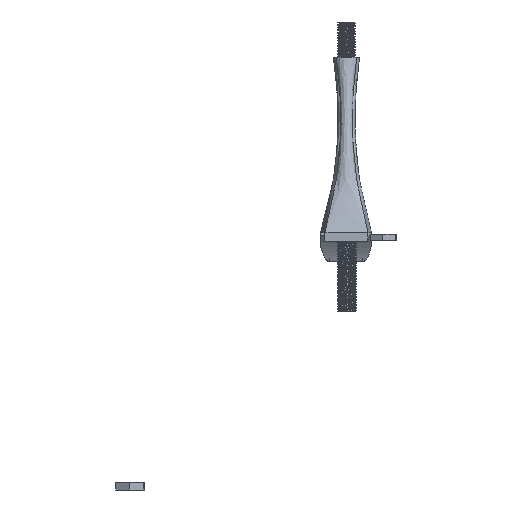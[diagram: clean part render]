
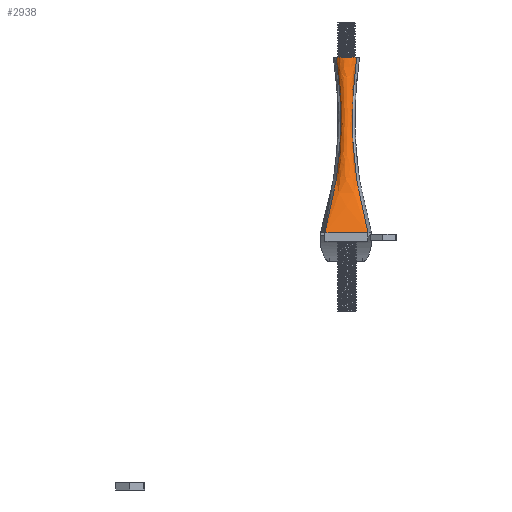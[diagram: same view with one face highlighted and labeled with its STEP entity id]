
A CAD part, front view. The second image highlights one B-rep face of the part: STEP entity #2938.
In plain terms, the highlighted free-form (B-spline) face has degree [3, 3] with [10, 4] control points.
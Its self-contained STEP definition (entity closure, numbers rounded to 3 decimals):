
#77=B_SPLINE_SURFACE_WITH_KNOTS('',3,3,((#14109,#14110,#14111,#14112),(#14113,
#14114,#14115,#14116),(#14117,#14118,#14119,#14120),(#14121,#14122,#14123,
#14124),(#14125,#14126,#14127,#14128),(#14129,#14130,#14131,#14132),(#14133,
#14134,#14135,#14136),(#14137,#14138,#14139,#14140),(#14141,#14142,#14143,
#14144),(#14145,#14146,#14147,#14148)),.UNSPECIFIED.,.F.,.F.,.F.,(4,1,1,
1,1,1,1,4),(4,4),(0.,0.143,0.286,0.429,
0.571,0.714,0.857,1.),(0.,1.),
 .UNSPECIFIED.);
#187=FACE_OUTER_BOUND('',#351,.T.);
#351=EDGE_LOOP('',(#2399,#2400,#2401,#2402,#2403,#2404));
#434=CIRCLE('',#3125,7.5);
#645=B_SPLINE_CURVE_WITH_KNOTS('',3,(#13942,#13943,#13944,#13945),
 .UNSPECIFIED.,.F.,.F.,(4,4),(0.,0.303),.UNSPECIFIED.);
#646=B_SPLINE_CURVE_WITH_KNOTS('',3,(#13947,#13948,#13949,#13950),
 .UNSPECIFIED.,.F.,.F.,(4,4),(0.303,1.),.UNSPECIFIED.);
#659=B_SPLINE_CURVE_WITH_KNOTS('',3,(#14151,#14152,#14153,#14154),
 .UNSPECIFIED.,.F.,.F.,(4,4),(0.,0.303),.UNSPECIFIED.);
#660=B_SPLINE_CURVE_WITH_KNOTS('',3,(#14155,#14156,#14157,#14158),
 .UNSPECIFIED.,.F.,.F.,(4,4),(0.303,1.),.UNSPECIFIED.);
#805=LINE('',#14149,#972);
#972=VECTOR('',#3525,10.);
#1238=VERTEX_POINT('',#13939);
#1239=VERTEX_POINT('',#13941);
#1240=VERTEX_POINT('',#13946);
#1252=VERTEX_POINT('',#14019);
#1261=VERTEX_POINT('',#14079);
#1264=VERTEX_POINT('',#14150);
#1633=EDGE_CURVE('',#1238,#1239,#645,.T.);
#1634=EDGE_CURVE('',#1239,#1240,#646,.T.);
#1660=EDGE_CURVE('',#1240,#1261,#434,.T.);
#1667=EDGE_CURVE('',#1238,#1252,#805,.T.);
#1668=EDGE_CURVE('',#1252,#1264,#659,.T.);
#1669=EDGE_CURVE('',#1264,#1261,#660,.T.);
#2399=ORIENTED_EDGE('',*,*,#1667,.T.);
#2400=ORIENTED_EDGE('',*,*,#1668,.T.);
#2401=ORIENTED_EDGE('',*,*,#1669,.T.);
#2402=ORIENTED_EDGE('',*,*,#1660,.F.);
#2403=ORIENTED_EDGE('',*,*,#1634,.F.);
#2404=ORIENTED_EDGE('',*,*,#1633,.F.);
#2938=ADVANCED_FACE('',(#187),#77,.T.);
#3125=AXIS2_PLACEMENT_3D('',#14080,#3512,#3513);
#3512=DIRECTION('center_axis',(0.,0.,1.));
#3513=DIRECTION('ref_axis',(1.,0.,0.));
#3525=DIRECTION('',(1.,0.,0.));
#13939=CARTESIAN_POINT('',(1.,-19.,146.751));
#13941=CARTESIAN_POINT('',(7.479,-2.79,176.751));
#13942=CARTESIAN_POINT('Ctrl Pts',(1.,-19.,146.751));
#13943=CARTESIAN_POINT('Ctrl Pts',(3.814,-13.057,156.705));
#13944=CARTESIAN_POINT('Ctrl Pts',(5.974,-7.654,166.705));
#13945=CARTESIAN_POINT('Ctrl Pts',(7.479,-2.79,176.751));
#13946=CARTESIAN_POINT('',(7.479,22.21,246.751));
#13947=CARTESIAN_POINT('Ctrl Pts',(7.479,-2.79,176.751));
#13948=CARTESIAN_POINT('Ctrl Pts',(10.938,8.393,199.843));
#13949=CARTESIAN_POINT('Ctrl Pts',(10.938,16.726,223.177));
#13950=CARTESIAN_POINT('Ctrl Pts',(7.479,22.21,246.751));
#14019=CARTESIAN_POINT('',(25.5,-19.,146.751));
#14079=CARTESIAN_POINT('',(19.083,22.285,246.751));
#14080=CARTESIAN_POINT('Origin',(13.25,27.,246.751));
#14109=CARTESIAN_POINT('Ctrl Pts',(1.,-19.,146.751));
#14110=CARTESIAN_POINT('Ctrl Pts',(10.283,0.603,179.589));
#14111=CARTESIAN_POINT('Ctrl Pts',(12.443,14.34,212.922));
#14112=CARTESIAN_POINT('Ctrl Pts',(7.479,22.21,246.751));
#14113=CARTESIAN_POINT('Ctrl Pts',(2.167,-19.,146.751));
#14114=CARTESIAN_POINT('Ctrl Pts',(10.048,0.281,179.589));
#14115=CARTESIAN_POINT('Ctrl Pts',(11.88,13.942,212.922));
#14116=CARTESIAN_POINT('Ctrl Pts',(7.666,21.985,246.751));
#14117=CARTESIAN_POINT('Ctrl Pts',(4.5,-19.,146.751));
#14118=CARTESIAN_POINT('Ctrl Pts',(9.876,-0.664,179.589));
#14119=CARTESIAN_POINT('Ctrl Pts',(11.127,12.779,212.922));
#14120=CARTESIAN_POINT('Ctrl Pts',(8.252,21.327,246.751));
#14121=CARTESIAN_POINT('Ctrl Pts',(8.,-19.,146.751));
#14122=CARTESIAN_POINT('Ctrl Pts',(10.651,-2.281,179.589));
#14123=CARTESIAN_POINT('Ctrl Pts',(11.267,10.783,212.922));
#14124=CARTESIAN_POINT('Ctrl Pts',(9.849,20.196,246.751));
#14125=CARTESIAN_POINT('Ctrl Pts',(11.5,-19.,146.751));
#14126=CARTESIAN_POINT('Ctrl Pts',(12.323,-3.338,179.589));
#14127=CARTESIAN_POINT('Ctrl Pts',(12.514,9.482,212.922));
#14128=CARTESIAN_POINT('Ctrl Pts',(12.074,19.461,246.751));
#14129=CARTESIAN_POINT('Ctrl Pts',(15.,-19.,146.751));
#14130=CARTESIAN_POINT('Ctrl Pts',(14.348,-3.31,179.589));
#14131=CARTESIAN_POINT('Ctrl Pts',(14.197,9.515,212.922));
#14132=CARTESIAN_POINT('Ctrl Pts',(14.545,19.478,246.751));
#14133=CARTESIAN_POINT('Ctrl Pts',(18.5,-19.,146.751));
#14134=CARTESIAN_POINT('Ctrl Pts',(15.998,-2.205,179.589));
#14135=CARTESIAN_POINT('Ctrl Pts',(15.415,10.879,212.922));
#14136=CARTESIAN_POINT('Ctrl Pts',(16.753,20.251,246.751));
#14137=CARTESIAN_POINT('Ctrl Pts',(22.,-19.,146.751));
#14138=CARTESIAN_POINT('Ctrl Pts',(16.74,-0.558,
179.589));
#14139=CARTESIAN_POINT('Ctrl Pts',(15.516,12.908,212.922));
#14140=CARTESIAN_POINT('Ctrl Pts',(18.329,21.399,246.751));
#14141=CARTESIAN_POINT('Ctrl Pts',(24.333,-19.,146.751));
#14142=CARTESIAN_POINT('Ctrl Pts',(16.548,0.39,179.589));
#14143=CARTESIAN_POINT('Ctrl Pts',(14.738,14.076,212.922));
#14144=CARTESIAN_POINT('Ctrl Pts',(18.901,22.061,246.751));
#14145=CARTESIAN_POINT('Ctrl Pts',(25.5,-19.,146.751));
#14146=CARTESIAN_POINT('Ctrl Pts',(16.305,0.711,179.589));
#14147=CARTESIAN_POINT('Ctrl Pts',(14.166,14.473,212.922));
#14148=CARTESIAN_POINT('Ctrl Pts',(19.083,22.285,246.751));
#14149=CARTESIAN_POINT('',(25.5,-19.,146.751));
#14150=CARTESIAN_POINT('',(19.083,-2.715,176.751));
#14151=CARTESIAN_POINT('Ctrl Pts',(25.5,-19.,146.751));
#14152=CARTESIAN_POINT('Ctrl Pts',(22.713,-13.025,156.705));
#14153=CARTESIAN_POINT('Ctrl Pts',(20.574,-7.596,166.705));
#14154=CARTESIAN_POINT('Ctrl Pts',(19.083,-2.715,176.751));
#14155=CARTESIAN_POINT('Ctrl Pts',(19.083,-2.715,176.751));
#14156=CARTESIAN_POINT('Ctrl Pts',(15.656,8.508,199.843));
#14157=CARTESIAN_POINT('Ctrl Pts',(15.656,16.841,223.177));
#14158=CARTESIAN_POINT('Ctrl Pts',(19.083,22.285,246.751));
